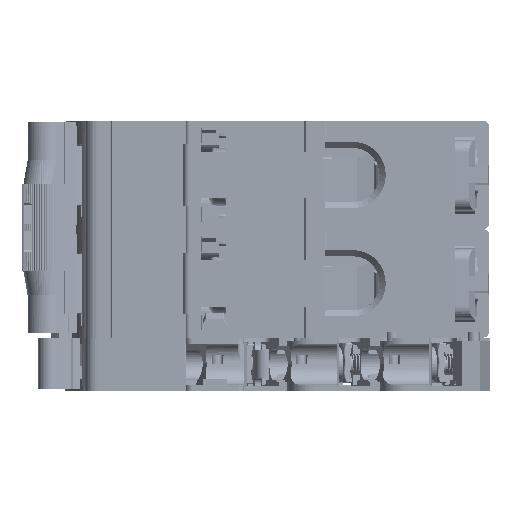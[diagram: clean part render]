
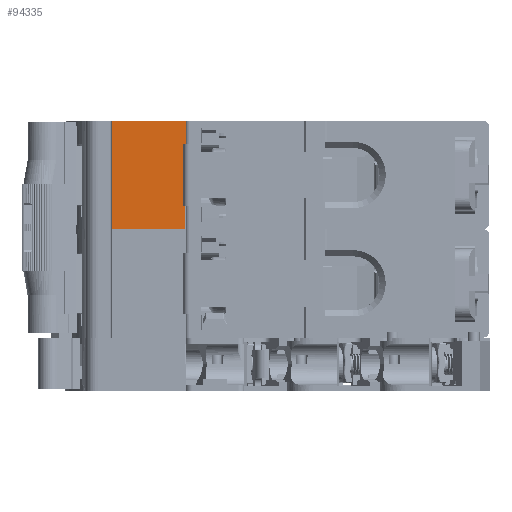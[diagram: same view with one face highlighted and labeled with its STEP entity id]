
A CAD part, left-side view. The second image highlights one B-rep face of the part: STEP entity #94335.
In plain terms, the highlighted planar face has unit normal (-1, 0, 0) as drawn and (1, 0, 0) by its records, which use the part's own axes.
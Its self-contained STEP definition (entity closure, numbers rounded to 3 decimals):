
#1013 = LINE ( 'NONE', #124077, #328049 ) ;
#8407 = EDGE_CURVE ( 'NONE', #148166, #300747, #29387, .T. ) ;
#9907 = CARTESIAN_POINT ( 'NONE',  ( -14.161, 58.87, 5.3 ) ) ;
#9983 = VECTOR ( 'NONE', #175288, 1000. ) ;
#10617 = DIRECTION ( 'NONE',  ( 0., -1., 0. ) ) ;
#13354 = DIRECTION ( 'NONE',  ( 0., 0., 1. ) ) ;
#13895 = ORIENTED_EDGE ( 'NONE', *, *, #216353, .T. ) ;
#15714 = VERTEX_POINT ( 'NONE', #244543 ) ;
#17485 = DIRECTION ( 'NONE',  ( 0., 0., -1. ) ) ;
#18204 = ORIENTED_EDGE ( 'NONE', *, *, #26020, .F. ) ;
#20600 = VERTEX_POINT ( 'NONE', #25212 ) ;
#21884 = CARTESIAN_POINT ( 'NONE',  ( -14.161, 46.789, 5.4 ) ) ;
#24171 = DIRECTION ( 'NONE',  ( 0., -0.016, 1. ) ) ;
#24336 = CARTESIAN_POINT ( 'NONE',  ( -14.161, 46.966, -3.4 ) ) ;
#25212 = CARTESIAN_POINT ( 'NONE',  ( -14.161, 46.789, 5.4 ) ) ;
#26020 = EDGE_CURVE ( 'NONE', #146065, #15714, #110863, .T. ) ;
#29084 = LINE ( 'NONE', #32422, #41526 ) ;
#29387 = LINE ( 'NONE', #183537, #58691 ) ;
#32422 = CARTESIAN_POINT ( 'NONE',  ( -14.161, 47.016, 5.3 ) ) ;
#32793 = CARTESIAN_POINT ( 'NONE',  ( -14.161, 58.87, -3.4 ) ) ;
#38007 = VERTEX_POINT ( 'NONE', #66246 ) ;
#38346 = EDGE_LOOP ( 'NONE', ( #299714, #13895, #345915, #79663, #155951, #18204, #222317, #63052, #69962, #172344, #119983 ) ) ;
#41526 = VECTOR ( 'NONE', #190583, 1000. ) ;
#43999 = VERTEX_POINT ( 'NONE', #325615 ) ;
#53519 = CARTESIAN_POINT ( 'NONE',  ( -14.161, 72.5, 5.3 ) ) ;
#58691 = VECTOR ( 'NONE', #238571, 1000. ) ;
#63052 = ORIENTED_EDGE ( 'NONE', *, *, #120100, .F. ) ;
#66246 = CARTESIAN_POINT ( 'NONE',  ( -14.161, 47.016, 14.2 ) ) ;
#66475 = CARTESIAN_POINT ( 'NONE',  ( -14.161, 41.647, -3.4 ) ) ;
#69721 = VECTOR ( 'NONE', #10617, 1000. ) ;
#69962 = ORIENTED_EDGE ( 'NONE', *, *, #223815, .F. ) ;
#70244 = FACE_OUTER_BOUND ( 'NONE', #38346, .T. ) ;
#72283 = VECTOR ( 'NONE', #264069, 1000. ) ;
#76366 = CARTESIAN_POINT ( 'NONE',  ( -14.161, 47.366, 0.4 ) ) ;
#78641 = DIRECTION ( 'NONE',  ( 0., 1., 0. ) ) ;
#79663 = ORIENTED_EDGE ( 'NONE', *, *, #233812, .T. ) ;
#83358 = CARTESIAN_POINT ( 'NONE',  ( -14.161, 46.966, 0.4 ) ) ;
#86809 = VECTOR ( 'NONE', #199458, 1000. ) ;
#86868 = CARTESIAN_POINT ( 'NONE',  ( -14.161, 20.464, 5.4 ) ) ;
#94335 = ADVANCED_FACE ( 'NONE', ( #70244 ), #295816, .T. ) ;
#107317 = DIRECTION ( 'NONE',  ( 0., 0., 1. ) ) ;
#110863 = LINE ( 'NONE', #212165, #140061 ) ;
#113289 = VERTEX_POINT ( 'NONE', #24336 ) ;
#115154 = VECTOR ( 'NONE', #24171, 1000. ) ;
#119983 = ORIENTED_EDGE ( 'NONE', *, *, #8407, .T. ) ;
#120100 = EDGE_CURVE ( 'NONE', #20600, #260358, #249255, .T. ) ;
#122021 = VECTOR ( 'NONE', #13354, 1000. ) ;
#124077 = CARTESIAN_POINT ( 'NONE',  ( -14.161, 47.366, 5.3 ) ) ;
#140061 = VECTOR ( 'NONE', #78641, 1000. ) ;
#141212 = LINE ( 'NONE', #279081, #86809 ) ;
#145554 = LINE ( 'NONE', #289461, #162314 ) ;
#146065 = VERTEX_POINT ( 'NONE', #282412 ) ;
#148166 = VERTEX_POINT ( 'NONE', #76366 ) ;
#155951 = ORIENTED_EDGE ( 'NONE', *, *, #283048, .T. ) ;
#162040 = LINE ( 'NONE', #86868, #69721 ) ;
#162250 = DIRECTION ( 'NONE',  ( 1., 0., 0. ) ) ;
#162314 = VECTOR ( 'NONE', #236783, 1000. ) ;
#172344 = ORIENTED_EDGE ( 'NONE', *, *, #219677, .T. ) ;
#175288 = DIRECTION ( 'NONE',  ( 0., 1., 0. ) ) ;
#183537 = CARTESIAN_POINT ( 'NONE',  ( -14.161, 22.5, 0.4 ) ) ;
#190583 = DIRECTION ( 'NONE',  ( 0., 0., -1. ) ) ;
#199458 = DIRECTION ( 'NONE',  ( 0., 0., -1. ) ) ;
#204276 = EDGE_CURVE ( 'NONE', #146065, #260358, #141212, .T. ) ;
#205743 = LINE ( 'NONE', #9907, #122021 ) ;
#212165 = CARTESIAN_POINT ( 'NONE',  ( -14.161, 22.5, 10.057 ) ) ;
#216353 = EDGE_CURVE ( 'NONE', #113289, #254948, #257388, .T. ) ;
#219677 = EDGE_CURVE ( 'NONE', #277817, #148166, #1013, .T. ) ;
#222317 = ORIENTED_EDGE ( 'NONE', *, *, #204276, .T. ) ;
#223524 = AXIS2_PLACEMENT_3D ( 'NONE', #53519, #162250, #107317 ) ;
#223815 = EDGE_CURVE ( 'NONE', #277817, #20600, #162040, .T. ) ;
#233812 = EDGE_CURVE ( 'NONE', #43999, #38007, #145554, .T. ) ;
#235969 = CARTESIAN_POINT ( 'NONE',  ( -14.161, 46.966, 5.3 ) ) ;
#236783 = DIRECTION ( 'NONE',  ( 0., -1., 0. ) ) ;
#238571 = DIRECTION ( 'NONE',  ( 0., -1., 0. ) ) ;
#244543 = CARTESIAN_POINT ( 'NONE',  ( -14.161, 47.016, 10.057 ) ) ;
#249255 = LINE ( 'NONE', #21884, #115154 ) ;
#254948 = VERTEX_POINT ( 'NONE', #32793 ) ;
#257388 = LINE ( 'NONE', #66475, #9983 ) ;
#260358 = VERTEX_POINT ( 'NONE', #318655 ) ;
#264069 = DIRECTION ( 'NONE',  ( 0., 0., -1. ) ) ;
#264842 = EDGE_CURVE ( 'NONE', #254948, #43999, #205743, .T. ) ;
#273542 = LINE ( 'NONE', #235969, #72283 ) ;
#277817 = VERTEX_POINT ( 'NONE', #282583 ) ;
#279081 = CARTESIAN_POINT ( 'NONE',  ( -14.161, 46.767, 5.3 ) ) ;
#282412 = CARTESIAN_POINT ( 'NONE',  ( -14.161, 46.767, 10.057 ) ) ;
#282583 = CARTESIAN_POINT ( 'NONE',  ( -14.161, 47.366, 5.4 ) ) ;
#283048 = EDGE_CURVE ( 'NONE', #38007, #15714, #29084, .T. ) ;
#289461 = CARTESIAN_POINT ( 'NONE',  ( -14.161, 72.5, 14.2 ) ) ;
#295816 = PLANE ( 'NONE',  #223524 ) ;
#299714 = ORIENTED_EDGE ( 'NONE', *, *, #342352, .T. ) ;
#300747 = VERTEX_POINT ( 'NONE', #83358 ) ;
#318655 = CARTESIAN_POINT ( 'NONE',  ( -14.161, 46.767, 6.83 ) ) ;
#325615 = CARTESIAN_POINT ( 'NONE',  ( -14.161, 58.87, 14.2 ) ) ;
#328049 = VECTOR ( 'NONE', #17485, 1000. ) ;
#342352 = EDGE_CURVE ( 'NONE', #300747, #113289, #273542, .T. ) ;
#345915 = ORIENTED_EDGE ( 'NONE', *, *, #264842, .T. ) ;
